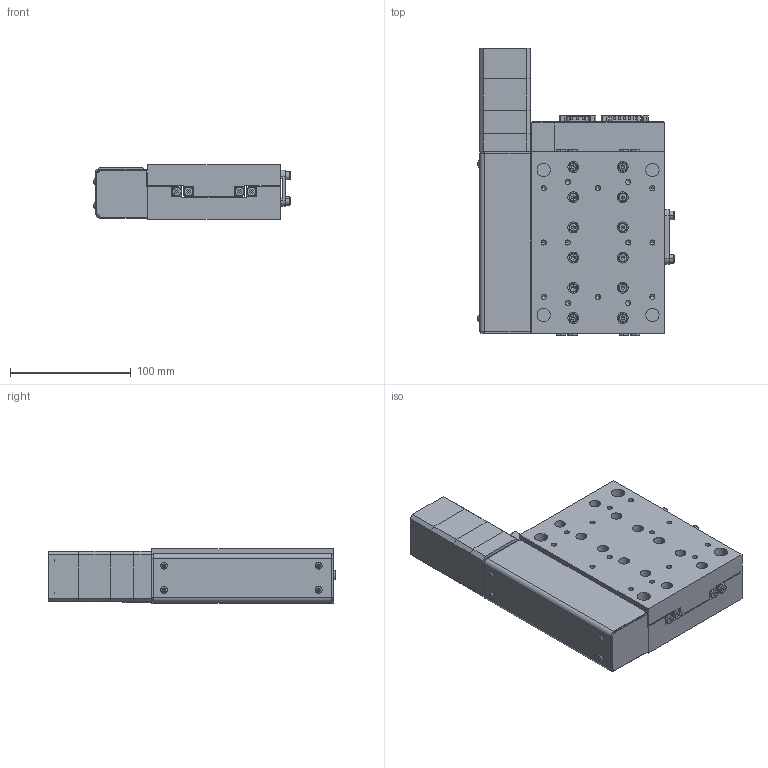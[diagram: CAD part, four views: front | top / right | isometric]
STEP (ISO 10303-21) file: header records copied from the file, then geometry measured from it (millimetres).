
FILE_DESCRIPTION (( 'STEP AP214' ), '1' );
FILE_NAME ('LNS-050-BS-A-H-S-D-EXPORT.STEP', '2025-06-27T18:07:12', ( 'lab' ), ( '' ), 'SwSTEP 2.0', 'SolidWorks 2018', '' );
FILE_SCHEMA (( 'AUTOMOTIVE_DESIGN' ));
Length unit declared in the file: millimetre
Products named in the file (11): 1000001_file_export0; 1000009; 1000010_file_export16; 1000008_file_export10; 1000011_file_export14; 1000015_file_export21; 1000007_file_export9; 1000014_file_export23; 1000012_file_export17; 1000013_file_export22; LNS-050-BS-A-H-S-D-EXPORT
Assembly tree (16 placements, depth 2):
  LNS-050-BS-A-H-S-D-EXPORT
    1000001_file_export0
    1000007_file_export9
    1000008_file_export10
    1000009
    1000010_file_export16  x4
    1000011_file_export14
    1000012_file_export17
    1000013_file_export22  x4
    1000014_file_export23
    1000015_file_export21
Bounding box: 162.5 x 237.65 x 45 mm (x, y, z)
Volume: 1159052.7 mm3; surface area: 232418.6 mm2
Topology: 72 solids, 72 shells, 1740 faces, 3940 edges, 2383 vertices
Faces by surface type: plane 1076, cylinder 326, bspline 170, cone 160, torus 8
Entity records: 55034 total; most frequent: CARTESIAN_POINT 13701, DIRECTION 7164, ORIENTED_EDGE 7120, EDGE_CURVE 3560, AXIS2_PLACEMENT_3D 2409, LINE 2346, VECTOR 2346, VERTEX_POINT 2206
